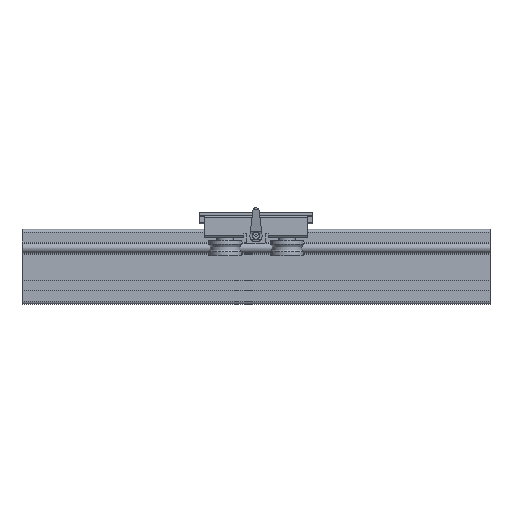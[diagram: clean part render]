
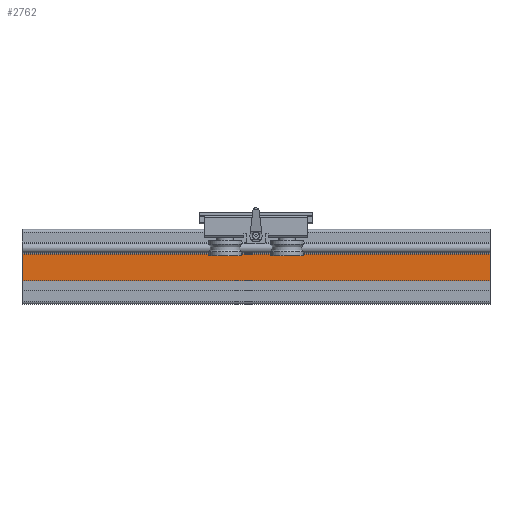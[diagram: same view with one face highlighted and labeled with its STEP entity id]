
A CAD part, front view. The second image highlights one B-rep face of the part: STEP entity #2762.
In plain terms, the highlighted planar face has unit normal (0, -1, 0).
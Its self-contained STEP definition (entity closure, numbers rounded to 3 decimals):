
#2706=CARTESIAN_POINT('',(500.0,-20.,-35.));
#2707=VERTEX_POINT('',#2706);
#2714=CARTESIAN_POINT('',(0.0,-20.,-35.));
#2715=VERTEX_POINT('',#2714);
#2716=CARTESIAN_POINT('',(0.0,-20.,-35.));
#2717=DIRECTION('',(1.0,0.0,0.0));
#2718=VECTOR('',#2717,500.0);
#2719=LINE('',#2716,#2718);
#2720=EDGE_CURVE('',#2715,#2707,#2719,.T.);
#2732=CARTESIAN_POINT('',(0.0,-20.,-35.));
#2733=DIRECTION('',(0.0,-1.0,0.0));
#2734=DIRECTION('',(0.0,0.0,-1.0));
#2735=AXIS2_PLACEMENT_3D('',#2732,#2733,#2734);
#2736=PLANE('',#2735);
#2737=CARTESIAN_POINT('',(500.0,-20.,-6.5));
#2738=VERTEX_POINT('',#2737);
#2739=CARTESIAN_POINT('',(500.0,-20.,-35.));
#2740=DIRECTION('',(0.0,0.0,1.0));
#2741=VECTOR('',#2740,28.5);
#2742=LINE('',#2739,#2741);
#2743=EDGE_CURVE('',#2707,#2738,#2742,.T.);
#2744=ORIENTED_EDGE('',*,*,#2743,.T.);
#2745=CARTESIAN_POINT('',(0.0,-20.,-6.5));
#2746=VERTEX_POINT('',#2745);
#2747=CARTESIAN_POINT('',(0.0,-20.,-6.5));
#2748=DIRECTION('',(1.0,0.0,0.0));
#2749=VECTOR('',#2748,500.0);
#2750=LINE('',#2747,#2749);
#2751=EDGE_CURVE('',#2746,#2738,#2750,.T.);
#2752=ORIENTED_EDGE('',*,*,#2751,.F.);
#2753=CARTESIAN_POINT('',(0.0,-20.,-6.5));
#2754=DIRECTION('',(0.0,0.0,-1.0));
#2755=VECTOR('',#2754,28.5);
#2756=LINE('',#2753,#2755);
#2757=EDGE_CURVE('',#2746,#2715,#2756,.T.);
#2758=ORIENTED_EDGE('',*,*,#2757,.T.);
#2759=ORIENTED_EDGE('',*,*,#2720,.T.);
#2760=EDGE_LOOP('',(#2744,#2752,#2758,#2759));
#2761=FACE_OUTER_BOUND('',#2760,.T.);
#2762=ADVANCED_FACE('',(#2761),#2736,.T.);
